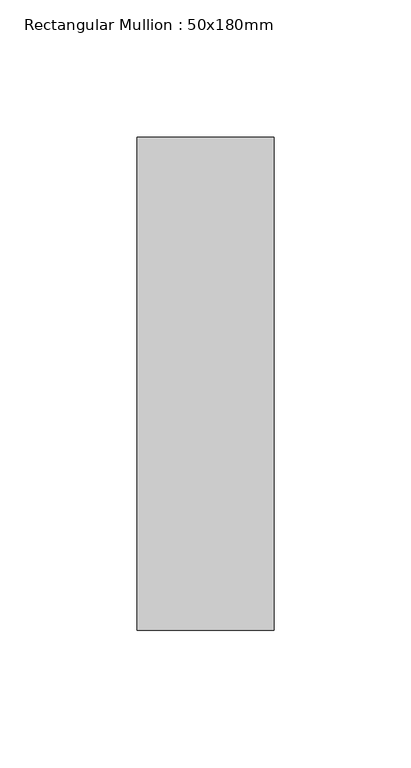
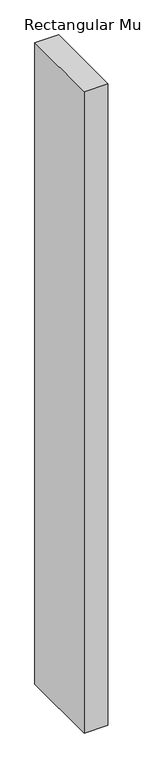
"""IFC4 building model written with IfcOpenShell, lengths in millimetres: member geometry, Rectangular Mullion : 50x180mm."""

import ifcopenshell
import ifcopenshell.guid

model = None  # the IFC model being written
_history = None  # IfcOwnerHistory: only IFC2X3 demands one
_inside = {}  # id of a spatial element -> (the spatial element, [elements in it])
_under = {}  # id of a project, library or spatial element -> (it, [spatial elements below it])
_declared = {}  # id of a project -> (the project, [libraries it declares])
_typed = {}  # id of a type object -> (the type object, [elements of that type])
_made_of = {}  # id of a material, layer set ... -> (it, [elements and type objects made of it])


def new_model(schema):
    """Start an empty IFC model of exactly this schema.

    Asked for "IFC4X3", IfcOpenShell would pick the latest addendum, in which some entities
    have other attributes; the version numbers below select the first issue.
    IFC2X3 requires an IfcOwnerHistory on every rooted entity: one is made here for all.
    """
    global model, _history
    if schema == "IFC4X3":
        model = ifcopenshell.file(schema_version=(4, 3, 0, 0))
    else:
        model = ifcopenshell.file(schema=schema)
    _inside.clear()
    _under.clear()
    _declared.clear()
    _typed.clear()
    _made_of.clear()
    _history = None
    if model.schema == "IFC2X3":
        org = make("IfcOrganization", Name="unknown")
        user = make(
            "IfcPersonAndOrganization",
            ThePerson=make("IfcPerson", FamilyName="unknown"),
            TheOrganization=org,
        )
        app = make(
            "IfcApplication",
            ApplicationDeveloper=org,
            Version="unknown",
            ApplicationFullName="unknown",
            ApplicationIdentifier="unknown",
        )
        _history = make(
            "IfcOwnerHistory",
            OwningUser=user,
            OwningApplication=app,
            ChangeAction="ADDED",
            CreationDate=0,
        )
    return model


def make(cls, **values):
    """One entity of the class cls with the attributes given. An attribute that is None is left unset."""
    return model.create_entity(
        cls, **{name: value for name, value in values.items() if value is not None}
    )


def rooted(cls, **values):
    """An entity with a GlobalId (a new one), such as an element, a storey or a relation."""
    return make(cls, GlobalId=ifcopenshell.guid.new(), OwnerHistory=_history, **values)


def si_unit(unit_type, name, prefix=None):
    """IfcSIUnit, for example si_unit("LENGTHUNIT", "METRE", prefix="MILLI")."""
    return make("IfcSIUnit", UnitType=unit_type, Prefix=prefix, Name=name)


def assignment(units):
    """IfcUnitAssignment: the units of a project."""
    return None if units is None else make("IfcUnitAssignment", Units=units)


def point(xyz):
    """IfcCartesianPoint."""
    return None if xyz is None else make("IfcCartesianPoint", Coordinates=xyz)


def direction(xyz):
    """IfcDirection."""
    return None if xyz is None else make("IfcDirection", DirectionRatios=xyz)


def frame(location, z_axis=None, x_axis=None):
    """IfcAxis2Placement3D, a coordinate frame: its origin and axes. An axis left out is left unset."""
    return make(
        "IfcAxis2Placement3D",
        Location=point(location),
        Axis=direction(z_axis),
        RefDirection=direction(x_axis),
    )


def origin():
    """The frame at (0, 0, 0) with its axes left unset."""
    return frame((0.0, 0.0, 0.0))


def place(relative_to, where):
    """IfcLocalPlacement: puts the frame where relative to a parent placement (None: the world)."""
    return make(
        "IfcLocalPlacement", PlacementRelTo=relative_to, RelativePlacement=where
    )


def context(
    kind, dimensions, precision=None, world=None, true_north=None, identifier=None
):
    """IfcGeometricRepresentationContext, for example the 3D "Model" context."""
    return make(
        "IfcGeometricRepresentationContext",
        ContextIdentifier=identifier,
        ContextType=kind,
        CoordinateSpaceDimension=dimensions,
        Precision=precision,
        WorldCoordinateSystem=world,
        TrueNorth=true_north,
    )


def project(units=None, contexts=None):
    """IfcProject with its units and contexts."""
    return rooted(
        "IfcProject",
        Name="project",
        RepresentationContexts=contexts,
        UnitsInContext=assignment(units),
    )


def spatial(cls, under=None, at=None, **own):
    """A site, building, storey or space (cls), placed at a placement, below another one or the project."""
    s = rooted(cls, ObjectPlacement=at, **own)
    if under is not None:
        _under.setdefault(under.id(), (under, []))[1].append(s)
    return s


def polyline(points):
    """IfcPolyline through the points."""
    return make("IfcPolyline", Points=[point(p) for p in points])


def outline(outer, holes=None, kind="AREA"):
    """IfcArbitraryClosedProfileDef: a profile drawn as a closed curve; with holes, ...WithVoids."""
    if holes is None:
        return make("IfcArbitraryClosedProfileDef", ProfileType=kind, OuterCurve=outer)
    return make(
        "IfcArbitraryProfileDefWithVoids",
        ProfileType=kind,
        OuterCurve=outer,
        InnerCurves=holes,
    )


def extrude(swept, where, along, depth):
    """IfcExtrudedAreaSolid: the profile swept, set in the frame where, extruded along a direction by depth."""
    return make(
        "IfcExtrudedAreaSolid",
        SweptArea=swept,
        Position=where,
        ExtrudedDirection=direction(along),
        Depth=depth,
    )


def shape(context_of_items, identifier, shape_type, items):
    """IfcShapeRepresentation: the items that make up one representation, for example the "Body"."""
    return make(
        "IfcShapeRepresentation",
        ContextOfItems=context_of_items,
        RepresentationIdentifier=identifier,
        RepresentationType=shape_type,
        Items=items,
    )


def source(mapping_origin, context_of_items, identifier, shape_type, items):
    """IfcRepresentationMap: a shape defined once, which mapped items show again and again."""
    return make(
        "IfcRepresentationMap",
        MappingOrigin=mapping_origin,
        MappedRepresentation=shape(context_of_items, identifier, shape_type, items),
    )


def transform(
    local_origin,
    x_axis=None,
    y_axis=None,
    z_axis=None,
    scale=None,
    scale2=None,
    scale3=None,
    uniform=True,
):
    """IfcCartesianTransformationOperator3D, or its non-uniform kind. x_axis, y_axis, z_axis: its Axis1, 2, 3."""
    if uniform:
        return make(
            "IfcCartesianTransformationOperator3D",
            Axis1=direction(x_axis),
            Axis2=direction(y_axis),
            LocalOrigin=point(local_origin),
            Scale=scale,
            Axis3=direction(z_axis),
        )
    return make(
        "IfcCartesianTransformationOperator3DnonUniform",
        Axis1=direction(x_axis),
        Axis2=direction(y_axis),
        LocalOrigin=point(local_origin),
        Scale=scale,
        Axis3=direction(z_axis),
        Scale2=scale2,
        Scale3=scale3,
    )


def mapped(mapping_source, mapping_target):
    """IfcMappedItem: shows the shape of a source again, moved by a transform."""
    return make(
        "IfcMappedItem", MappingSource=mapping_source, MappingTarget=mapping_target
    )


def made_of(thing, what):
    """Note that an element or type object is made of a material, layer set ...; save() writes the relation."""
    if what is not None:
        _made_of.setdefault(what.id(), (what, []))[1].append(thing)
    return thing


def element(
    cls,
    number,
    at=None,
    inside=None,
    cuts=None,
    type_object=None,
    material=None,
    context=None,
    identifier="Body",
    shape_type=None,
    held_by="IfcProductDefinitionShape",
    body=None,
    shapes=None,
    **own,
):
    """One element of the class cls, such as IfcWall. Its Tag is "e" and its number.

    at: its placement. inside: the storey or other place that contains it. cuts: it is an
    opening in that element (IfcRelVoidsElement). A single representation is given by context,
    identifier, shape_type and body (its items); several are given by shapes. held_by: the class
    of the entity that holds the representations. save() writes the other relations.
    """
    e = rooted(cls, Tag="e%d" % number, ObjectPlacement=at, **own)
    if body is not None:
        shapes = [shape(context, identifier, shape_type, body)]
    if shapes is not None:
        e.Representation = make(held_by, Representations=shapes)
    if inside is not None:
        _inside.setdefault(inside.id(), (inside, []))[1].append(e)
    if cuts is not None:
        rooted(
            "IfcRelVoidsElement", RelatingBuildingElement=cuts, RelatedOpeningElement=e
        )
    if type_object is not None:
        _typed.setdefault(type_object.id(), (type_object, []))[1].append(e)
    return made_of(e, material)


def aggregate(whole, parts):
    """IfcRelAggregates: a whole, such as a stair, and the parts it consists of."""
    return rooted("IfcRelAggregates", RelatingObject=whole, RelatedObjects=parts)


def save(model, path):
    """Write the relations noted so far, then the file.

    IfcRelAggregates (storeys below a building ...), IfcRelContainedInSpatialStructure (elements
    in a storey), IfcRelDefinesByType, IfcRelAssociatesMaterial and IfcRelDeclares: one each for
    every whole, place, type object, material and project.
    """
    for whole, parts in _under.values():
        aggregate(whole, parts)
    for where, things in _inside.values():
        rooted(
            "IfcRelContainedInSpatialStructure",
            RelatedElements=things,
            RelatingStructure=where,
        )
    for kind, things in _typed.values():
        rooted("IfcRelDefinesByType", RelatedObjects=things, RelatingType=kind)
    for what, things in _made_of.values():
        rooted("IfcRelAssociatesMaterial", RelatedObjects=things, RelatingMaterial=what)
    for by, libraries in _declared.values():
        rooted("IfcRelDeclares", RelatingContext=by, RelatedDefinitions=libraries)
    model.write(path)


def rectangular_mullion_50x180mm_9c6cddf7(model_context):
    return source(origin(), model_context, "Body", "SweptSolid", [
        extrude(outline(polyline([(0.0, 90.0), (0.0, -90.0), (-50.0, -90.0), (-50.0, 90.0), (0.0, 90.0)])), frame((0.0, 0.0, -1432.8124999), z_axis=(0.0, 0.0, 1.0), x_axis=(1.0, 0.0, 0.0)), (0.0, 0.0, 1.0), 1432.8124999),
    ])


if __name__ == "__main__":
    model = new_model("IFC4")
    model_context = context("Model", 3, world=origin())
    ifc_project = project(units=[si_unit("LENGTHUNIT", "METRE", prefix="MILLI")], contexts=[model_context])
    site = spatial("IfcSite", under=ifc_project)
    building = spatial("IfcBuilding", under=site)
    placement = place(None, origin())
    rectangular_mullion_50x180mm_shape = rectangular_mullion_50x180mm_9c6cddf7(model_context)
    element("IfcMember", 1, ObjectType="Rectangular Mullion : 50x180mm", at=placement, inside=building, context=model_context, shape_type="MappedRepresentation", body=[
        mapped(rectangular_mullion_50x180mm_shape, transform((0.0, 0.0, 0.0), x_axis=(1.0, 0.0, 0.0), y_axis=(0.0, 1.0, 0.0), z_axis=(0.0, 0.0, 1.0))),
    ])
    save(model, "model.ifc")
